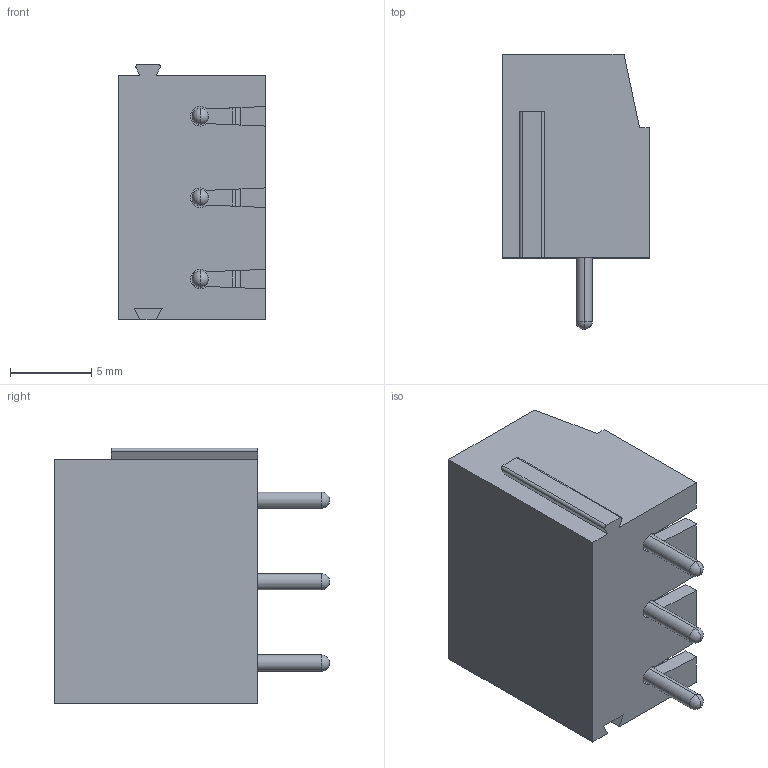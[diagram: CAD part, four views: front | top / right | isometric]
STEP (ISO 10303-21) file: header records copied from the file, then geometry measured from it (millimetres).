
FILE_DESCRIPTION (( 'STEP AP203' ), '1' );
FILE_NAME ('BR003.STEP', '2020-02-20T03:40:55', ( '' ), ( '' ), 'SwSTEP 2.0', 'SolidWorks 2019', '' );
FILE_SCHEMA (( 'CONFIG_CONTROL_DESIGN' ));
Length unit declared in the file: millimetre
Products named in the file (1): BR003
Bounding box: 9 x 16.9 x 15.7 mm (x, y, z)
Volume: 1265.8 mm3; surface area: 1593.6 mm2
Topology: 1 solids, 1 shells, 225 faces, 591 edges, 380 vertices
Faces by surface type: plane 133, cylinder 68, cone 12, torus 6, sphere 6
Entity records: 6915 total; most frequent: CARTESIAN_POINT 1239, DIRECTION 1176, ORIENTED_EDGE 1158, EDGE_CURVE 579, LINE 410, VECTOR 410, AXIS2_PLACEMENT_3D 383, VERTEX_POINT 374
